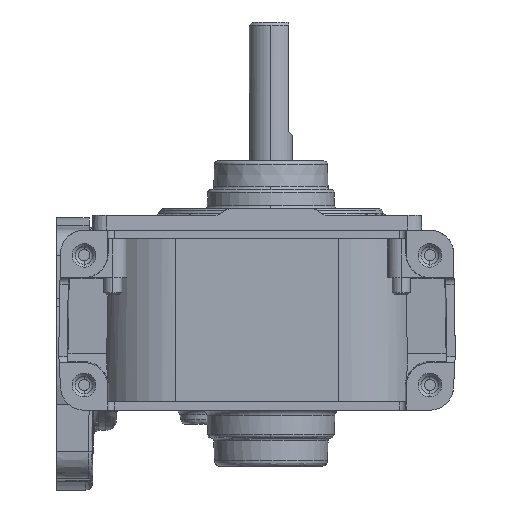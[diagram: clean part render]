
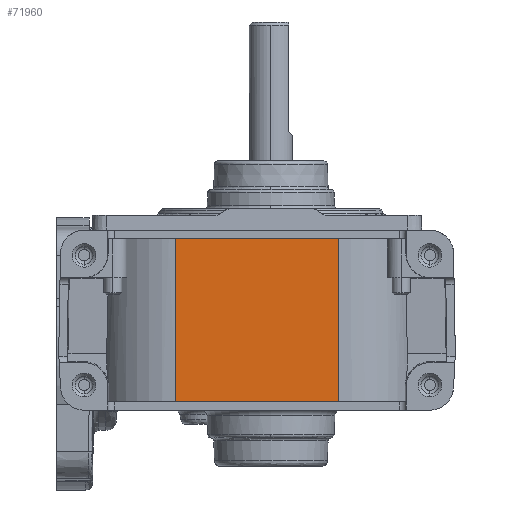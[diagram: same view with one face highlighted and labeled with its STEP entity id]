
A CAD part, front view. The second image highlights one B-rep face of the part: STEP entity #71960.
In plain terms, the highlighted planar face has unit normal (0, -1, 0).
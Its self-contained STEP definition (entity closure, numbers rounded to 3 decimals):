
#1601 = FACE_OUTER_BOUND ( 'NONE', #6823, .T. ) ;
#4912 = VECTOR ( 'NONE', #68471, 1000. ) ;
#5626 = DIRECTION ( 'NONE',  ( 1., 0., 0. ) ) ;
#6190 = ORIENTED_EDGE ( 'NONE', *, *, #56740, .T. ) ;
#6823 = EDGE_LOOP ( 'NONE', ( #20562, #61695, #6190, #75817 ) ) ;
#7649 = PLANE ( 'NONE',  #63869 ) ;
#8091 = CARTESIAN_POINT ( 'NONE',  ( -11.125, -41.958, 26.134 ) ) ;
#20493 = EDGE_CURVE ( 'NONE', #42860, #33672, #35637, .T. ) ;
#20515 = CARTESIAN_POINT ( 'NONE',  ( -11.125, -41.958, -0.478 ) ) ;
#20562 = ORIENTED_EDGE ( 'NONE', *, *, #20493, .F. ) ;
#20860 = VERTEX_POINT ( 'NONE', #8091 ) ;
#21331 = CARTESIAN_POINT ( 'NONE',  ( -11.125, -41.958, -11.654 ) ) ;
#21533 = DIRECTION ( 'NONE',  ( 0., 0., -1. ) ) ;
#21909 = CARTESIAN_POINT ( 'NONE',  ( -11.125, -41.958, -0.478 ) ) ;
#25185 = CARTESIAN_POINT ( 'NONE',  ( 26.467, -41.958, 26.134 ) ) ;
#29887 = EDGE_CURVE ( 'NONE', #20860, #42860, #48211, .T. ) ;
#30002 = DIRECTION ( 'NONE',  ( 0., 0., -1. ) ) ;
#33672 = VERTEX_POINT ( 'NONE', #61743 ) ;
#34375 = VECTOR ( 'NONE', #21533, 1000. ) ;
#35637 = LINE ( 'NONE', #41276, #68447 ) ;
#36264 = LINE ( 'NONE', #49910, #4912 ) ;
#41276 = CARTESIAN_POINT ( 'NONE',  ( 26.467, -41.958, -0.478 ) ) ;
#42860 = VERTEX_POINT ( 'NONE', #25185 ) ;
#48157 = VECTOR ( 'NONE', #5626, 1000. ) ;
#48211 = LINE ( 'NONE', #67574, #48157 ) ;
#49910 = CARTESIAN_POINT ( 'NONE',  ( -11.125, -41.958, -11.654 ) ) ;
#52094 = EDGE_CURVE ( 'NONE', #73348, #33672, #36264, .T. ) ;
#56740 = EDGE_CURVE ( 'NONE', #20860, #73348, #77049, .T. ) ;
#61695 = ORIENTED_EDGE ( 'NONE', *, *, #29887, .F. ) ;
#61743 = CARTESIAN_POINT ( 'NONE',  ( 26.467, -41.958, -11.654 ) ) ;
#63869 = AXIS2_PLACEMENT_3D ( 'NONE', #20515, #63961, #69595 ) ;
#63961 = DIRECTION ( 'NONE',  ( 0., -1., 0. ) ) ;
#67574 = CARTESIAN_POINT ( 'NONE',  ( 53.058, -41.958, 26.134 ) ) ;
#68447 = VECTOR ( 'NONE', #30002, 1000. ) ;
#68471 = DIRECTION ( 'NONE',  ( 1., 0., 0. ) ) ;
#69595 = DIRECTION ( 'NONE',  ( 0., 0., -1. ) ) ;
#71960 = ADVANCED_FACE ( 'NONE', ( #1601 ), #7649, .T. ) ;
#73348 = VERTEX_POINT ( 'NONE', #21331 ) ;
#75817 = ORIENTED_EDGE ( 'NONE', *, *, #52094, .T. ) ;
#77049 = LINE ( 'NONE', #21909, #34375 ) ;
